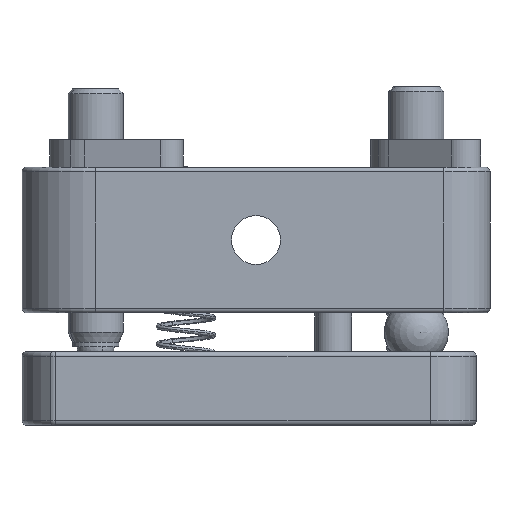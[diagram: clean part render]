
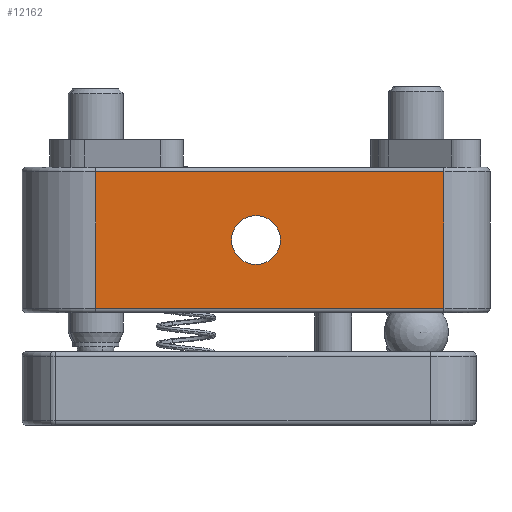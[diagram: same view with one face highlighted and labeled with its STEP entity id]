
A CAD part, left-side view. The second image highlights one B-rep face of the part: STEP entity #12162.
In plain terms, the highlighted planar face has unit normal (-1, 0, 0).
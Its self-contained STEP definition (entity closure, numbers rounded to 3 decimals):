
#358 = EDGE_LOOP ( 'NONE', ( #8805, #2838, #4248, #4492 ) ) ;
#1156 = EDGE_LOOP ( 'NONE', ( #6052, #17990 ) ) ;
#1500 = DIRECTION ( 'NONE',  ( 0., 0., -1. ) ) ;
#2453 = CARTESIAN_POINT ( 'NONE',  ( 31.252, 70.666, -43.489 ) ) ;
#2838 = ORIENTED_EDGE ( 'NONE', *, *, #3446, .T. ) ;
#3337 = LINE ( 'NONE', #10701, #8101 ) ;
#3446 = EDGE_CURVE ( 'NONE', #4879, #17700, #15544, .T. ) ;
#3895 = CARTESIAN_POINT ( 'NONE',  ( 31.252, 70.666, -42.989 ) ) ;
#4248 = ORIENTED_EDGE ( 'NONE', *, *, #17624, .F. ) ;
#4391 = CIRCLE ( 'NONE', #17913, 2.65 ) ;
#4492 = ORIENTED_EDGE ( 'NONE', *, *, #15302, .T. ) ;
#4560 = DIRECTION ( 'NONE',  ( -1., 0., 0. ) ) ;
#4626 = CARTESIAN_POINT ( 'NONE',  ( 31.252, 53.266, -53.539 ) ) ;
#4879 = VERTEX_POINT ( 'NONE', #19857 ) ;
#5562 = VERTEX_POINT ( 'NONE', #17043 ) ;
#5712 = FACE_BOUND ( 'NONE', #1156, .T. ) ;
#6052 = ORIENTED_EDGE ( 'NONE', *, *, #12774, .F. ) ;
#6343 = DIRECTION ( 'NONE',  ( 0., -1., 0. ) ) ;
#6364 = DIRECTION ( 'NONE',  ( 0., 0., -1. ) ) ;
#6962 = EDGE_CURVE ( 'NONE', #7759, #4879, #3337, .T. ) ;
#7117 = CARTESIAN_POINT ( 'NONE',  ( 31.252, 70.666, -43.489 ) ) ;
#7324 = CARTESIAN_POINT ( 'NONE',  ( 31.252, 32.866, -58.289 ) ) ;
#7759 = VERTEX_POINT ( 'NONE', #7117 ) ;
#8101 = VECTOR ( 'NONE', #18096, 1000. ) ;
#8805 = ORIENTED_EDGE ( 'NONE', *, *, #6962, .T. ) ;
#8809 = VECTOR ( 'NONE', #1500, 1000. ) ;
#9294 = VERTEX_POINT ( 'NONE', #4626 ) ;
#9842 = DIRECTION ( 'NONE',  ( 0., 1., 0. ) ) ;
#10692 = LINE ( 'NONE', #18087, #8809 ) ;
#10701 = CARTESIAN_POINT ( 'NONE',  ( 31.252, 70.666, -42.989 ) ) ;
#11264 = DIRECTION ( 'NONE',  ( 1., 0., 0. ) ) ;
#11933 = DIRECTION ( 'NONE',  ( 0., 0., -1. ) ) ;
#12162 = ADVANCED_FACE ( 'NONE', ( #5712, #13095 ), #20477, .F. ) ;
#12774 = EDGE_CURVE ( 'NONE', #9294, #14316, #4391, .T. ) ;
#13095 = FACE_OUTER_BOUND ( 'NONE', #358, .T. ) ;
#13434 = CIRCLE ( 'NONE', #16517, 2.65 ) ;
#14316 = VERTEX_POINT ( 'NONE', #19899 ) ;
#15302 = EDGE_CURVE ( 'NONE', #5562, #7759, #19037, .T. ) ;
#15544 = LINE ( 'NONE', #22934, #19209 ) ;
#15560 = CARTESIAN_POINT ( 'NONE',  ( 31.252, 53.266, -50.889 ) ) ;
#16517 = AXIS2_PLACEMENT_3D ( 'NONE', #21143, #4560, #11933 ) ;
#17043 = CARTESIAN_POINT ( 'NONE',  ( 31.252, 32.866, -43.489 ) ) ;
#17446 = EDGE_CURVE ( 'NONE', #14316, #9294, #13434, .T. ) ;
#17624 = EDGE_CURVE ( 'NONE', #5562, #17700, #10692, .T. ) ;
#17700 = VERTEX_POINT ( 'NONE', #7324 ) ;
#17913 = AXIS2_PLACEMENT_3D ( 'NONE', #15560, #22951, #6364 ) ;
#17990 = ORIENTED_EDGE ( 'NONE', *, *, #17446, .F. ) ;
#18087 = CARTESIAN_POINT ( 'NONE',  ( 31.252, 32.866, -42.989 ) ) ;
#18096 = DIRECTION ( 'NONE',  ( 0., 0., -1. ) ) ;
#18657 = DIRECTION ( 'NONE',  ( 0., 0., 1. ) ) ;
#19037 = LINE ( 'NONE', #2453, #23232 ) ;
#19209 = VECTOR ( 'NONE', #6343, 1000. ) ;
#19857 = CARTESIAN_POINT ( 'NONE',  ( 31.252, 70.666, -58.289 ) ) ;
#19899 = CARTESIAN_POINT ( 'NONE',  ( 31.252, 53.266, -48.239 ) ) ;
#20477 = PLANE ( 'NONE',  #21239 ) ;
#21143 = CARTESIAN_POINT ( 'NONE',  ( 31.252, 53.266, -50.889 ) ) ;
#21239 = AXIS2_PLACEMENT_3D ( 'NONE', #3895, #11264, #18657 ) ;
#22934 = CARTESIAN_POINT ( 'NONE',  ( 31.252, 70.666, -58.289 ) ) ;
#22951 = DIRECTION ( 'NONE',  ( -1., 0., 0. ) ) ;
#23232 = VECTOR ( 'NONE', #9842, 1000. ) ;
